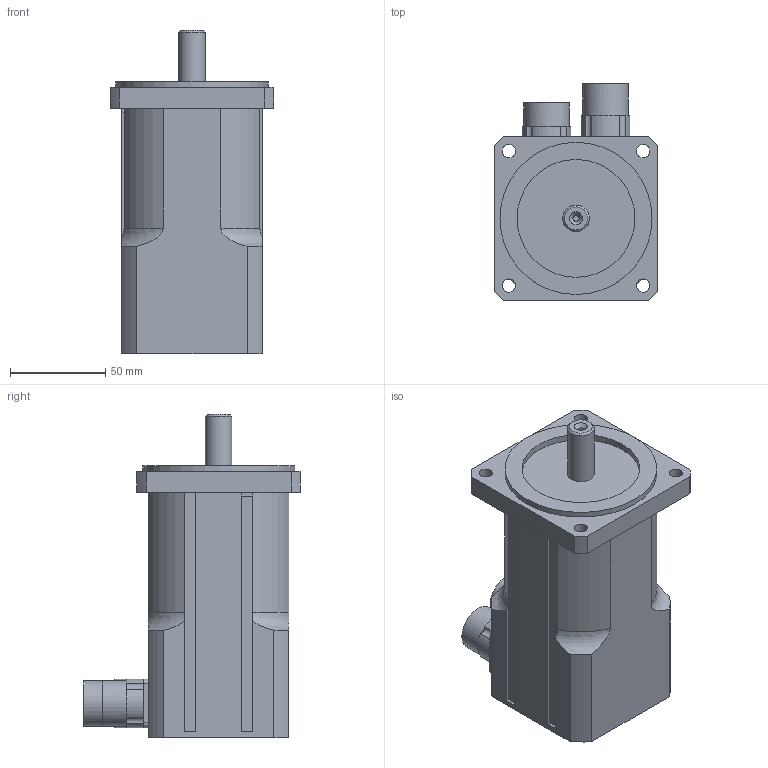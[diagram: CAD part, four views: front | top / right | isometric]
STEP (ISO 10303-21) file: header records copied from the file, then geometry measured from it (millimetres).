
FILE_DESCRIPTION(/* description */ ('Alibre Inc.'),/* implementation_level */ '2;1');
FILE_NAME(/* name */ 'export0',/* time_stamp */ '2011-07-28T10:17:39+02:00',/* author */ (''),/* organization */ (''),/* preprocessor_version */ 'ST-DEVELOPER v12',/* originating_system */ 'Alibre',/* authorisation */ '');
FILE_SCHEMA (('AUTOMOTIVE_DESIGN'));
Length unit declared in the file: millimetre
Products named in the file (5): ID_1
Bounding box: 86 x 114 x 170 mm (x, y, z)
Volume: 742136.9 mm3; surface area: 77550.7 mm2
Topology: 4 solids, 4 shells, 140 faces, 354 edges, 228 vertices
Faces by surface type: plane 65, cylinder 51, bspline 19, torus 4, cone 1
Full cylindrical faces by diameter (mm): 2.7 x8, 14 x1, 20 x2, 24 x2, 62 x1, 80 x1
Entity records: 4540 total; most frequent: CARTESIAN_POINT 1153, DIRECTION 655, ORIENTED_EDGE 644, EDGE_CURVE 322, AXIS2_PLACEMENT_3D 285, VERTEX_POINT 220, EDGE_LOOP 198, FACE_BOUND 198
